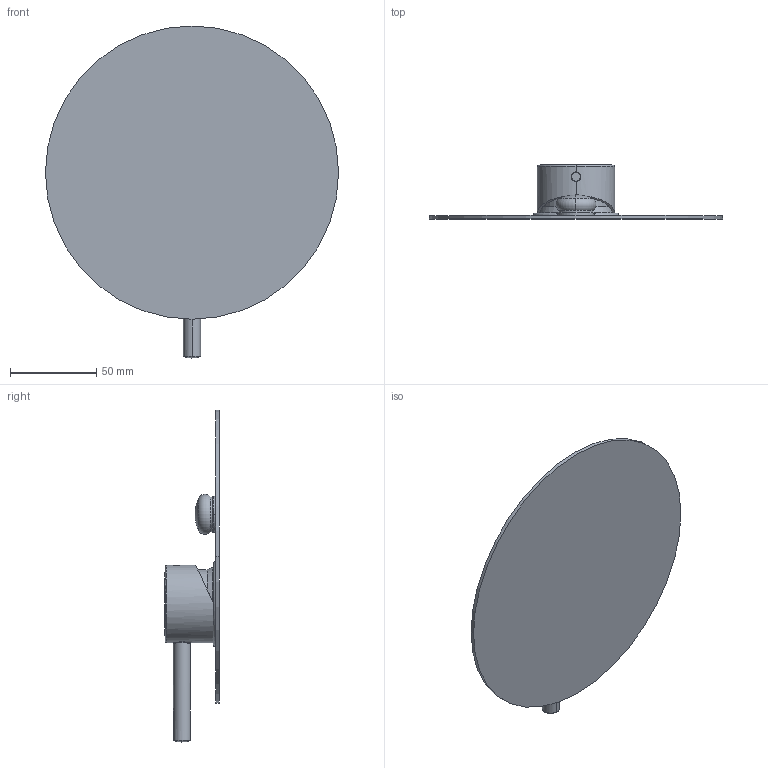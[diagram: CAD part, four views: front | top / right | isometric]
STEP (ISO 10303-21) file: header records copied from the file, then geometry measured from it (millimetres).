
FILE_DESCRIPTION (( 'STEP AP214' ), '1' );
FILE_NAME ('12115310 x architetti.STEP', '2024-09-13T12:24:57', ( '' ), ( '' ), 'SwSTEP 2.0', 'SolidWorks 2020', '' );
FILE_SCHEMA (( 'AUTOMOTIVE_DESIGN' ));
Length unit declared in the file: millimetre
Products named in the file (1): 12115310 x architetti
Bounding box: 170 x 31.64 x 192.5 mm (x, y, z)
Volume: 97246.6 mm3; surface area: 60891.1 mm2
Topology: 1 solids, 7 shells, 90 faces, 211 edges, 130 vertices
Faces by surface type: cylinder 41, plane 19, bspline 12, torus 12, cone 6
Entity records: 4369 total; most frequent: CARTESIAN_POINT 1433, DIRECTION 436, ORIENTED_EDGE 414, EDGE_CURVE 207, AXIS2_PLACEMENT_3D 189, VERTEX_POINT 130, CIRCLE 110, EDGE_LOOP 101
